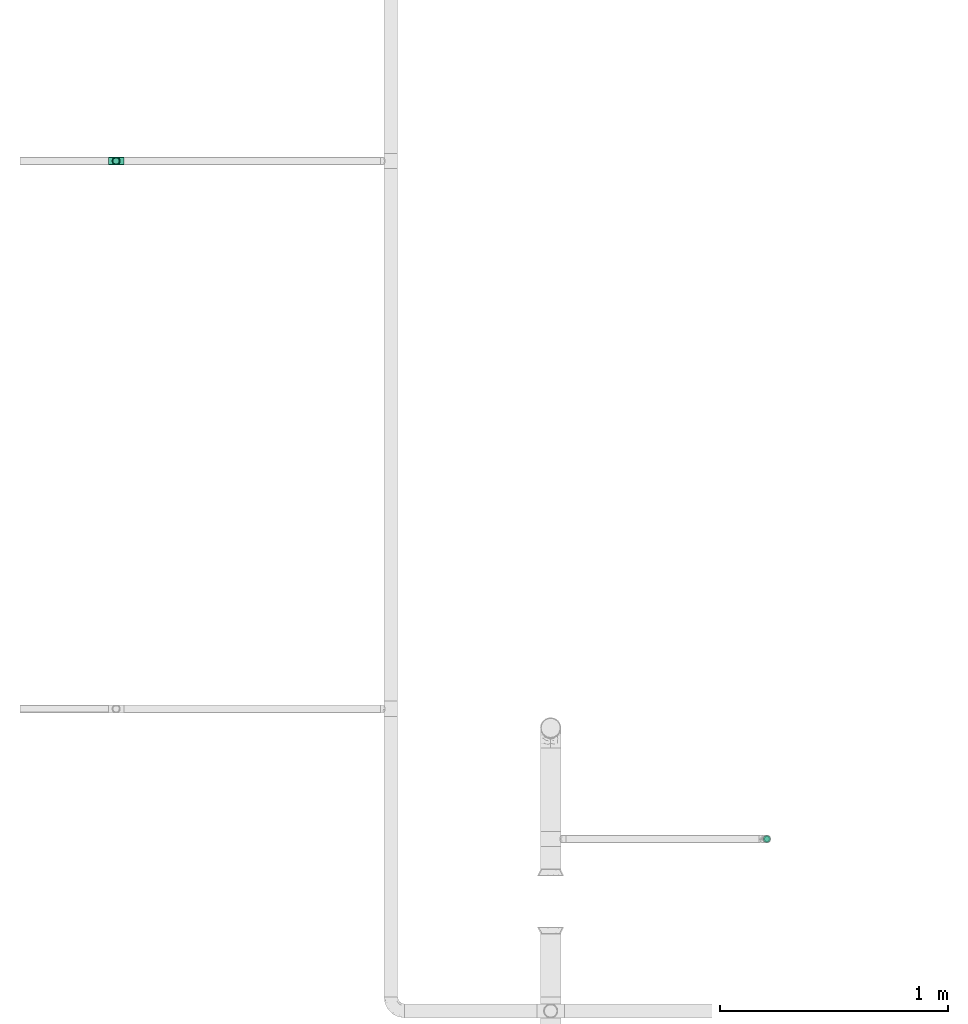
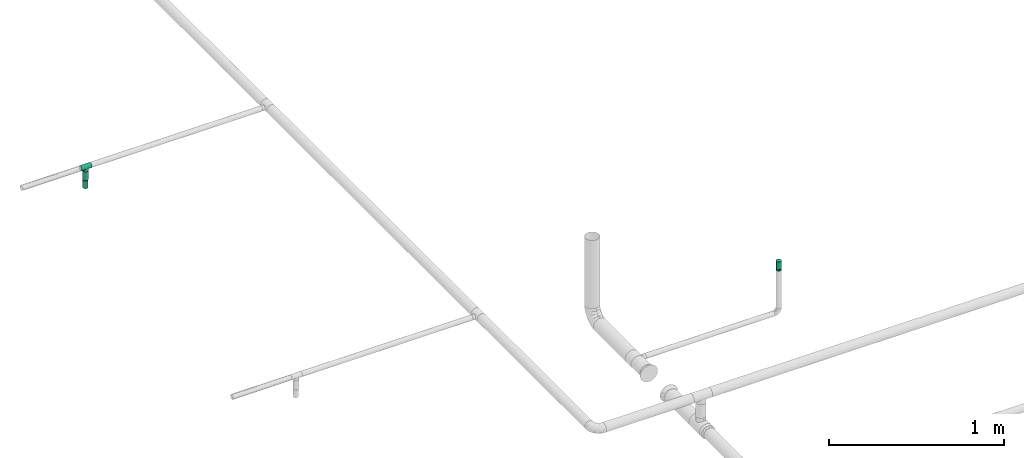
# One storey, part 20 of 45: 2 flow fittings, 2 flow terminals, 1 flow segment.
"""IFC2X3 building model written with IfcOpenShell, lengths in millimetres."""

import ifcopenshell
import ifcopenshell.guid

model = None  # the IFC model being written
_history = None  # IfcOwnerHistory: only IFC2X3 demands one
_inside = {}  # id of a spatial element -> (the spatial element, [elements in it])
_under = {}  # id of a project, library or spatial element -> (it, [spatial elements below it])
_declared = {}  # id of a project -> (the project, [libraries it declares])
_typed = {}  # id of a type object -> (the type object, [elements of that type])
_made_of = {}  # id of a material, layer set ... -> (it, [elements and type objects made of it])


def new_model(schema):
    """Start an empty IFC model of exactly this schema.

    Asked for "IFC4X3", IfcOpenShell would pick the latest addendum, in which some entities
    have other attributes; the version numbers below select the first issue.
    IFC2X3 requires an IfcOwnerHistory on every rooted entity: one is made here for all.
    """
    global model, _history
    if schema == "IFC4X3":
        model = ifcopenshell.file(schema_version=(4, 3, 0, 0))
    else:
        model = ifcopenshell.file(schema=schema)
    _inside.clear()
    _under.clear()
    _declared.clear()
    _typed.clear()
    _made_of.clear()
    _history = None
    if model.schema == "IFC2X3":
        org = make("IfcOrganization", Name="unknown")
        user = make(
            "IfcPersonAndOrganization",
            ThePerson=make("IfcPerson", FamilyName="unknown"),
            TheOrganization=org,
        )
        app = make(
            "IfcApplication",
            ApplicationDeveloper=org,
            Version="unknown",
            ApplicationFullName="unknown",
            ApplicationIdentifier="unknown",
        )
        _history = make(
            "IfcOwnerHistory",
            OwningUser=user,
            OwningApplication=app,
            ChangeAction="ADDED",
            CreationDate=0,
        )
    return model


def make(cls, **values):
    """One entity of the class cls with the attributes given. An attribute that is None is left unset."""
    return model.create_entity(
        cls, **{name: value for name, value in values.items() if value is not None}
    )


def entity(cls, *values):
    """Any entity or typed value of the class cls, its attributes in the order of the schema. None: left unset."""
    e = model.create_entity(cls)
    for i, value in enumerate(values):
        if value is not None:
            e[i] = value
    return e


def rooted(cls, **values):
    """An entity with a GlobalId (a new one), such as an element, a storey or a relation."""
    return make(cls, GlobalId=ifcopenshell.guid.new(), OwnerHistory=_history, **values)


def si_unit(unit_type, name, prefix=None):
    """IfcSIUnit, for example si_unit("LENGTHUNIT", "METRE", prefix="MILLI")."""
    return make("IfcSIUnit", UnitType=unit_type, Prefix=prefix, Name=name)


def converted_unit(unit_type, name, factor, base, dimensions=None, offset=None):
    """IfcConversionBasedUnit, such as the inch: factor (a typed value) times the base unit."""
    return make(
        "IfcConversionBasedUnit"
        if offset is None
        else "IfcConversionBasedUnitWithOffset",
        ConversionOffset=offset,
        Dimensions=None
        if dimensions is None
        else entity("IfcDimensionalExponents", *dimensions),
        UnitType=unit_type,
        Name=name,
        ConversionFactor=make(
            "IfcMeasureWithUnit", ValueComponent=factor, UnitComponent=base
        ),
    )


def derived_unit(unit_type, elements):
    """IfcDerivedUnit: a product of units, each with its exponent."""
    return make(
        "IfcDerivedUnit",
        Elements=[
            make("IfcDerivedUnitElement", Unit=unit, Exponent=power)
            for unit, power in elements
        ],
        UnitType=unit_type,
    )


def assignment(units):
    """IfcUnitAssignment: the units of a project."""
    return None if units is None else make("IfcUnitAssignment", Units=units)


def point(xyz):
    """IfcCartesianPoint."""
    return None if xyz is None else make("IfcCartesianPoint", Coordinates=xyz)


def direction(xyz):
    """IfcDirection."""
    return None if xyz is None else make("IfcDirection", DirectionRatios=xyz)


def frame(location, z_axis=None, x_axis=None):
    """IfcAxis2Placement3D, a coordinate frame: its origin and axes. An axis left out is left unset."""
    return make(
        "IfcAxis2Placement3D",
        Location=point(location),
        Axis=direction(z_axis),
        RefDirection=direction(x_axis),
    )


def frame_2d(location, x_axis=None):
    """IfcAxis2Placement2D, a coordinate frame in the plane: its origin and x axis."""
    return make(
        "IfcAxis2Placement2D", Location=point(location), RefDirection=direction(x_axis)
    )


def origin_with_axes():
    """The frame at (0, 0, 0) with the z axis (0, 0, 1) and the x axis (1, 0, 0) written out."""
    return frame((0.0, 0.0, 0.0), z_axis=(0.0, 0.0, 1.0), x_axis=(1.0, 0.0, 0.0))


def origin_2d_with_axis():
    """The frame at (0, 0) in the plane with the x axis (1, 0) written out."""
    return frame_2d((0.0, 0.0), x_axis=(1.0, 0.0))


def place(relative_to, where):
    """IfcLocalPlacement: puts the frame where relative to a parent placement (None: the world)."""
    return make(
        "IfcLocalPlacement", PlacementRelTo=relative_to, RelativePlacement=where
    )


def context(
    kind, dimensions, precision=None, world=None, true_north=None, identifier=None
):
    """IfcGeometricRepresentationContext, for example the 3D "Model" context."""
    return make(
        "IfcGeometricRepresentationContext",
        ContextIdentifier=identifier,
        ContextType=kind,
        CoordinateSpaceDimension=dimensions,
        Precision=precision,
        WorldCoordinateSystem=world,
        TrueNorth=true_north,
    )


def subcontext(parent, identifier, kind, view, scale=None):
    """IfcGeometricRepresentationSubContext, for example "Body" below "Model"."""
    return make(
        "IfcGeometricRepresentationSubContext",
        ContextIdentifier=identifier,
        ContextType=kind,
        ParentContext=parent,
        TargetScale=scale,
        TargetView=view,
    )


def project(units=None, contexts=None):
    """IfcProject with its units and contexts."""
    return rooted(
        "IfcProject",
        Name="project",
        RepresentationContexts=contexts,
        UnitsInContext=assignment(units),
    )


def spatial(cls, under=None, at=None, **own):
    """A site, building, storey or space (cls), placed at a placement, below another one or the project."""
    s = rooted(cls, ObjectPlacement=at, **own)
    if under is not None:
        _under.setdefault(under.id(), (under, []))[1].append(s)
    return s


def profile(cls, at=None, kind="AREA", **sizes):
    """A parametric profile (cls). Its sizes go by their IFC names, for example OverallWidth=200.0."""
    return make(cls, ProfileType=kind, Position=at, **sizes)


def hollow_circle(**sizes):
    """IfcCircleHollowProfileDef."""
    return profile("IfcCircleHollowProfileDef", **sizes)


def extrude(swept, where, along, depth):
    """IfcExtrudedAreaSolid: the profile swept, set in the frame where, extruded along a direction by depth."""
    return make(
        "IfcExtrudedAreaSolid",
        SweptArea=swept,
        Position=where,
        ExtrudedDirection=direction(along),
        Depth=depth,
    )


def faces_of(points, faces, orient=None, outer=None):
    """IfcFace entities. A face is a list of loops; a loop is a list of indices into points, from 0.

    orient and outer hold one flag for each loop. By default every Orientation is true, the
    first loop of a face is its IfcFaceOuterBound and the others are IfcFaceBound.
    """
    made = []
    for i, loops in enumerate(faces):
        bounds = []
        for j, loop in enumerate(loops):
            is_outer = j == 0 if outer is None else outer[i][j]
            bounds.append(
                make(
                    "IfcFaceOuterBound" if is_outer else "IfcFaceBound",
                    Bound=make("IfcPolyLoop", Polygon=[points[k] for k in loop]),
                    Orientation=True if orient is None else orient[i][j],
                )
            )
        made.append(make("IfcFace", Bounds=bounds))
    return made


def open_shell(faces, orient=None, outer=None):
    """The faces of one IfcOpenShell. surface_model builds it on its shared points."""
    return ("IfcOpenShell", faces, orient, outer)


def surface_model(cls, points, shells):
    """IfcFaceBasedSurfaceModel or IfcShellBasedSurfaceModel (cls): surfaces that need not close."""
    shared = [point(p) for p in points]
    made = [make(c, CfsFaces=faces_of(shared, fs, o, b)) for c, fs, o, b in shells]
    if cls == "IfcFaceBasedSurfaceModel":
        return make(cls, FbsmFaces=made)
    return make(cls, SbsmBoundary=made)


def shape(context_of_items, identifier, shape_type, items):
    """IfcShapeRepresentation: the items that make up one representation, for example the "Body"."""
    return make(
        "IfcShapeRepresentation",
        ContextOfItems=context_of_items,
        RepresentationIdentifier=identifier,
        RepresentationType=shape_type,
        Items=items,
    )


def source(mapping_origin, context_of_items, identifier, shape_type, items):
    """IfcRepresentationMap: a shape defined once, which mapped items show again and again."""
    return make(
        "IfcRepresentationMap",
        MappingOrigin=mapping_origin,
        MappedRepresentation=shape(context_of_items, identifier, shape_type, items),
    )


def transform(
    local_origin,
    x_axis=None,
    y_axis=None,
    z_axis=None,
    scale=None,
    scale2=None,
    scale3=None,
    uniform=True,
):
    """IfcCartesianTransformationOperator3D, or its non-uniform kind. x_axis, y_axis, z_axis: its Axis1, 2, 3."""
    if uniform:
        return make(
            "IfcCartesianTransformationOperator3D",
            Axis1=direction(x_axis),
            Axis2=direction(y_axis),
            LocalOrigin=point(local_origin),
            Scale=scale,
            Axis3=direction(z_axis),
        )
    return make(
        "IfcCartesianTransformationOperator3DnonUniform",
        Axis1=direction(x_axis),
        Axis2=direction(y_axis),
        LocalOrigin=point(local_origin),
        Scale=scale,
        Axis3=direction(z_axis),
        Scale2=scale2,
        Scale3=scale3,
    )


def mapped(mapping_source, mapping_target):
    """IfcMappedItem: shows the shape of a source again, moved by a transform."""
    return make(
        "IfcMappedItem", MappingSource=mapping_source, MappingTarget=mapping_target
    )


def made_of(thing, what):
    """Note that an element or type object is made of a material, layer set ...; save() writes the relation."""
    if what is not None:
        _made_of.setdefault(what.id(), (what, []))[1].append(thing)
    return thing


def type_object(cls, material=None, **own):
    """A type object (cls), such as IfcWallType, which elements share."""
    return made_of(rooted(cls, **own), material)


def element(
    cls,
    number,
    at=None,
    inside=None,
    cuts=None,
    type_object=None,
    material=None,
    context=None,
    identifier="Body",
    shape_type=None,
    held_by="IfcProductDefinitionShape",
    body=None,
    shapes=None,
    **own,
):
    """One element of the class cls, such as IfcWall. Its Tag is "e" and its number.

    at: its placement. inside: the storey or other place that contains it. cuts: it is an
    opening in that element (IfcRelVoidsElement). A single representation is given by context,
    identifier, shape_type and body (its items); several are given by shapes. held_by: the class
    of the entity that holds the representations. save() writes the other relations.
    """
    e = rooted(cls, Tag="e%d" % number, ObjectPlacement=at, **own)
    if body is not None:
        shapes = [shape(context, identifier, shape_type, body)]
    if shapes is not None:
        e.Representation = make(held_by, Representations=shapes)
    if inside is not None:
        _inside.setdefault(inside.id(), (inside, []))[1].append(e)
    if cuts is not None:
        rooted(
            "IfcRelVoidsElement", RelatingBuildingElement=cuts, RelatedOpeningElement=e
        )
    if type_object is not None:
        _typed.setdefault(type_object.id(), (type_object, []))[1].append(e)
    return made_of(e, material)


def aggregate(whole, parts):
    """IfcRelAggregates: a whole, such as a stair, and the parts it consists of."""
    return rooted("IfcRelAggregates", RelatingObject=whole, RelatedObjects=parts)


def save(model, path):
    """Write the relations noted so far, then the file.

    IfcRelAggregates (storeys below a building ...), IfcRelContainedInSpatialStructure (elements
    in a storey), IfcRelDefinesByType, IfcRelAssociatesMaterial and IfcRelDeclares: one each for
    every whole, place, type object, material and project.
    """
    for whole, parts in _under.values():
        aggregate(whole, parts)
    for where, things in _inside.values():
        rooted(
            "IfcRelContainedInSpatialStructure",
            RelatedElements=things,
            RelatingStructure=where,
        )
    for kind, things in _typed.values():
        rooted("IfcRelDefinesByType", RelatedObjects=things, RelatingType=kind)
    for what, things in _made_of.values():
        rooted("IfcRelAssociatesMaterial", RelatedObjects=things, RelatingMaterial=what)
    for by, libraries in _declared.values():
        rooted("IfcRelDeclares", RelatingContext=by, RelatedDefinitions=libraries)
    model.write(path)


model = new_model("IFC2X3")

# Units and contexts
model_context = context("Model", 3, precision=0.01, world=frame((0.0, 4.29681676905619e-09, 0.0)), true_north=direction((4.01073788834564e-13, 1.0)))
plan_context = context("Plan", 3, precision=0.01, world=frame((0.0, 4.29681676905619e-09, 0.0)), true_north=direction((4.01073788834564e-13, 1.0)))
body_context = subcontext(model_context, "Body", "Model", "MODEL_VIEW")
ifc_project = project(units=[converted_unit("PLANEANGLEUNIT", "DEGREE", entity("IfcPositiveLengthMeasure", 0.0174532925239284), si_unit("PLANEANGLEUNIT", "RADIAN"), dimensions=[0, 0, 0, 0, 0, 0, 0]), si_unit("AREAUNIT", "SQUARE_METRE"), si_unit("LENGTHUNIT", "METRE", prefix="MILLI"), si_unit("MASSUNIT", "GRAM", prefix="KILO"), si_unit("POWERUNIT", "WATT"), si_unit("PRESSUREUNIT", "PASCAL", prefix="KILO"), si_unit("FORCEUNIT", "NEWTON", prefix="KILO"), si_unit("ELECTRICVOLTAGEUNIT", "VOLT"), si_unit("ELECTRICCURRENTUNIT", "AMPERE"), si_unit("THERMODYNAMICTEMPERATUREUNIT", "DEGREE_CELSIUS"), si_unit("TIMEUNIT", "SECOND"), si_unit("VOLUMEUNIT", "CUBIC_METRE"), derived_unit("LINEARVELOCITYUNIT", [(si_unit("LENGTHUNIT", "METRE"), 1), (si_unit("TIMEUNIT", "SECOND"), -1)]), derived_unit("VOLUMETRICFLOWRATEUNIT", [(si_unit("VOLUMEUNIT", "CUBIC_METRE"), 1), (si_unit("TIMEUNIT", "SECOND"), -1)]), derived_unit("THERMALTRANSMITTANCEUNIT", [(si_unit("POWERUNIT", "WATT"), 1), (si_unit("THERMODYNAMICTEMPERATUREUNIT", "KELVIN"), -1), (si_unit("AREAUNIT", "SQUARE_METRE"), -1)]), derived_unit("SOUNDPRESSUREUNIT", [(si_unit("PRESSUREUNIT", "PASCAL"), 1)])], contexts=[model_context, plan_context])

# Site, building, storey
site_placement = place(None, frame((0.0, -4.29681676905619e-09, 0.0), z_axis=(0.0, 0.0, 1.0), x_axis=(1.0, 0.0, 0.0)))
site = spatial("IfcSite", under=ifc_project, at=site_placement, CompositionType="ELEMENT")
building_placement = place(site_placement, frame((0.0, 4.29681676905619e-09, 0.0), z_axis=(0.0, 0.0, 1.0), x_axis=(1.0, 0.0, 0.0)))
building = spatial("IfcBuilding", under=site, at=building_placement, Name="mc-building", CompositionType="ELEMENT")
storey_placement = place(building_placement, frame((0.0, 0.0, 210200.0), z_axis=(0.0, 0.0, 1.0), x_axis=(1.0, 0.0, 0.0)))
storey = spatial("IfcBuildingStorey", under=building, at=storey_placement, Name="Nivå F - 0,7 m", CompositionType="ELEMENT", Elevation=210200.0)

# Flow fittings
pipe_fitting_type_1 = type_object("IfcPipeFittingType", Name="magi_pipe_fe_tee_centric_90_001", PredefinedType="JUNCTION")
shared_shape_1 = source(origin_with_axes(), body_context, "Body", "SurfaceModel", [
    surface_model("IfcShellBasedSurfaceModel", [(-33.8, -8.45, 14.63583), (-33.8, 0.0, 16.9), (-33.8, 8.45, 14.63583), (-33.8, -4.37404, -16.32415), (-33.8, 16.32415, 4.37404), (-33.8, 0.0, -16.9), (-33.8, -11.9501, -11.9501), (-33.8, -8.45, -14.63583), (-33.8, -14.63583, -8.45), (-33.8, -16.32415, -4.37404), (-33.8, 16.9, 0.0), (-33.8, 8.45, -14.63583), (-33.8, 14.63583, -8.45), (-33.8, 11.9501, -11.9501), (-33.8, 4.37404, -16.32415), (-33.8, 16.32415, -4.37404), (-33.8, -16.32415, 4.37404), (-33.8, -14.63583, 8.45), (-33.8, -11.9501, 11.9501), (-33.8, -4.37404, 16.32415), (-33.8, 14.63583, 8.45), (-33.8, 11.9501, 11.9501), (-33.8, 4.37404, 16.32415), (-33.8, -16.9, 0.0), (33.8, 0.0, -16.9), (33.8, 14.63583, -8.45), (33.8, -4.37404, -16.32415), (33.8, -8.45, -14.63583), (33.8, -14.63583, -8.45), (33.8, -16.32415, -4.37404), (33.8, -11.9501, -11.9501), (33.8, -8.45, 14.63583), (33.8, 4.37404, -16.32415), (33.8, 8.45, -14.63583), (33.8, 11.9501, -11.9501), (33.8, 16.9, 0.0), (33.8, 16.32415, -4.37404), (33.8, -16.32415, 4.37404), (33.8, -14.63583, 8.45), (33.8, 8.45, 14.63583), (33.8, -11.9501, 11.9501), (33.8, -4.37404, 16.32415), (33.8, 11.9501, 11.9501), (33.8, 14.63583, 8.45), (33.8, 16.32415, 4.37404), (33.8, 4.37404, 16.32415), (33.8, 0.0, 16.9), (33.8, -16.9, 0.0), (16.28698, 16.28698, 4.51047), (16.9, 16.9, 0.0), (14.62704, 14.62704, 8.4652), (9.47213, 9.47213, 13.99602), (12.26343, 12.26343, 11.62834), (-16.28698, 16.28698, 4.51047), (-16.9, 16.9, 0.0), (-14.62704, 14.62704, 8.4652), (-9.47213, 9.47213, 13.99602), (-12.26343, 12.26343, 11.62834), (-6.42894, 6.42894, 15.62942), (6.42894, 6.42894, 15.62942), (0.0, 0.0, 16.9), (3.24522, 3.24522, 16.58549), (-3.24522, 3.24522, 16.58549), (3.24522, 3.24522, -16.58549), (0.0, 0.0, -16.9), (-6.42894, 6.42894, -15.62942), (-3.24522, 3.24522, -16.58549), (6.42894, 6.42894, -15.62942), (9.47213, 9.47213, -13.99602), (12.26343, 12.26343, -11.62834), (14.62704, 14.62704, -8.4652), (16.28698, 16.28698, -4.51047), (-9.47213, 9.47213, -13.99602), (-12.26343, 12.26343, -11.62834), (-16.28698, 16.28698, -4.51047), (-14.62704, 14.62704, -8.4652), (0.0, 25.35, -16.9), (-16.9, 25.35, 0.0), (4.37404, 25.35, -16.32415), (8.45, 25.35, -14.63583), (14.63583, 25.35, -8.45), (16.32415, 25.35, -4.37404), (11.9501, 25.35, -11.9501), (16.9, 25.35, 0.0), (-11.9501, 25.35, -11.9501), (-14.63583, 25.35, -8.45), (-8.45, 25.35, -14.63583), (-4.37404, 25.35, -16.32415), (-16.32415, 25.35, -4.37404), (16.32415, 25.35, 4.37404), (8.45, 25.35, 14.63583), (14.63583, 25.35, 8.45), (-8.45, 25.35, 14.63583), (11.9501, 25.35, 11.9501), (4.37404, 25.35, 16.32415), (-14.63583, 25.35, 8.45), (-11.9501, 25.35, 11.9501), (-16.32415, 25.35, 4.37404), (-4.37404, 25.35, 16.32415), (0.0, 25.35, 16.9)], [open_shell([[[0, 1, 2]], [[3, 4, 5]], [[6, 3, 7]], [[8, 9, 3]], [[8, 3, 6]], [[10, 5, 4]], [[11, 12, 13]], [[11, 14, 5]], [[5, 15, 12]], [[12, 11, 5]], [[15, 5, 10]], [[4, 3, 9]], [[9, 16, 17]], [[4, 9, 17]], [[0, 2, 17]], [[0, 17, 18]], [[1, 0, 19]], [[20, 2, 21]], [[2, 20, 4]], [[2, 1, 22]], [[2, 4, 17]], [[16, 9, 23]], [[24, 25, 26]], [[27, 26, 28]], [[26, 29, 28]], [[30, 27, 28]], [[25, 31, 26]], [[32, 33, 24]], [[33, 34, 24]], [[35, 31, 36]], [[25, 24, 34]], [[31, 25, 36]], [[31, 29, 26]], [[31, 37, 29]], [[38, 37, 31]], [[35, 39, 31]], [[40, 38, 31]], [[41, 31, 39]], [[42, 39, 43]], [[44, 43, 39]], [[45, 46, 39]], [[39, 35, 44]], [[39, 46, 41]], [[29, 37, 47]], [[48, 43, 44]], [[49, 44, 35]], [[48, 44, 49]], [[48, 50, 43]], [[51, 39, 42]], [[52, 43, 50]], [[42, 52, 51]], [[42, 43, 52]], [[4, 53, 54]], [[10, 4, 54]], [[20, 53, 4]], [[20, 55, 53]], [[21, 56, 57]], [[57, 20, 21]], [[2, 56, 21]], [[55, 20, 57]], [[58, 56, 2]], [[59, 39, 51]], [[60, 46, 61]], [[61, 45, 59]], [[39, 59, 45]], [[46, 45, 61]], [[41, 46, 60]], [[16, 37, 38]], [[40, 31, 18]], [[38, 40, 17]], [[0, 31, 41]], [[47, 37, 23]], [[1, 60, 62]], [[58, 22, 62]], [[1, 62, 22]], [[2, 22, 58]], [[1, 19, 60]], [[60, 19, 41]], [[41, 19, 0]], [[18, 31, 0]], [[40, 18, 17]], [[38, 17, 16]], [[16, 23, 37]], [[30, 28, 8]], [[29, 47, 23]], [[7, 27, 30]], [[29, 9, 28]], [[63, 32, 24]], [[26, 64, 24]], [[63, 24, 64]], [[3, 26, 27]], [[26, 3, 64]], [[7, 30, 6]], [[8, 28, 9]], [[6, 30, 8]], [[29, 23, 9]], [[14, 65, 66]], [[64, 3, 5]], [[14, 66, 5]], [[14, 11, 65]], [[27, 7, 3]], [[66, 64, 5]], [[67, 32, 63]], [[68, 34, 33]], [[34, 68, 69]], [[69, 70, 25]], [[25, 34, 69]], [[67, 68, 33]], [[49, 35, 36]], [[25, 71, 36]], [[49, 36, 71]], [[70, 71, 25]], [[65, 11, 72]], [[11, 13, 72]], [[73, 72, 13]], [[12, 73, 13]], [[15, 54, 74]], [[12, 74, 75]], [[12, 15, 74]], [[10, 54, 15]], [[73, 12, 75]], [[32, 67, 33]], [[76, 77, 78]], [[79, 78, 80]], [[78, 81, 80]], [[82, 79, 80]], [[78, 77, 83]], [[84, 85, 86]], [[76, 87, 86]], [[88, 77, 85]], [[86, 85, 77]], [[86, 77, 76]], [[83, 81, 78]], [[89, 83, 90]], [[91, 89, 90]], [[92, 90, 83]], [[93, 91, 90]], [[94, 90, 92]], [[95, 96, 97]], [[92, 97, 96]], [[98, 99, 92]], [[92, 77, 97]], [[92, 99, 94]], [[83, 77, 92]], [[54, 97, 77]], [[97, 54, 53]], [[57, 96, 95]], [[56, 92, 96]], [[53, 95, 97]], [[98, 92, 58]], [[95, 53, 55]], [[95, 55, 57]], [[92, 56, 58]], [[62, 60, 99]], [[62, 98, 58]], [[56, 96, 57]], [[99, 98, 62]], [[99, 61, 94]], [[94, 59, 90]], [[48, 89, 91]], [[91, 93, 52]], [[90, 51, 93]], [[83, 89, 49]], [[94, 61, 59]], [[90, 59, 51]], [[89, 48, 49]], [[91, 52, 50]], [[91, 50, 48]], [[52, 93, 51]], [[60, 61, 99]], [[49, 81, 83]], [[81, 49, 71]], [[69, 82, 80]], [[68, 79, 82]], [[71, 80, 81]], [[78, 79, 67]], [[80, 71, 70]], [[80, 70, 69]], [[79, 68, 67]], [[63, 64, 76]], [[63, 78, 67]], [[68, 82, 69]], [[76, 78, 63]], [[76, 66, 87]], [[87, 65, 86]], [[74, 88, 85]], [[84, 73, 85]], [[84, 86, 72]], [[77, 88, 54]], [[87, 66, 65]], [[86, 65, 72]], [[88, 74, 54]], [[85, 73, 75]], [[85, 75, 74]], [[73, 84, 72]], [[64, 66, 76]]])]),
])
flow_fitting_1_placement = place(storey_placement, frame((322215.87674, 466123.25463, 3145.0), z_axis=(0.0, 1.0, 0.0), x_axis=(1.0, 0.0, 0.0)))
element("IfcFlowFitting", 1, at=flow_fitting_1_placement, inside=storey, type_object=pipe_fitting_type_1, Name="magi_pipe_fe_tee_centric_90_001", context=body_context, shape_type="MappedRepresentation", body=[
    mapped(shared_shape_1, transform((0.0, 0.0, 0.0), scale=1.0)),
])
pipe_fitting_type_2 = type_object("IfcPipeFittingType", Name="magi_pipe_fe_reducer_centric_short_001", PredefinedType="TRANSITION")
shared_shape_2 = source(origin_with_axes(), body_context, "Body", "SurfaceModel", [
    surface_model("IfcShellBasedSurfaceModel", [(-2.0, -7.56604, -7.56604), (-2.0, -10.33541, -2.76936), (-2.0, -5.35, -9.26647), (-2.0, 5.35, -9.26647), (-2.0, 10.33541, -2.76936), (-2.0, 7.56604, -7.56604), (12.4, 11.9501, 11.9501), (12.4, 0.0, 16.9), (12.4, 11.9501, -11.9501), (12.4, 16.9, 0.0), (0.0, -10.7, 0.0), (0.0, -5.35, 9.26647), (0.0, -5.35, -9.26647), (0.0, 10.7, 0.0), (12.4, 15.66253, -2.98753), (12.4, 8.96258, -13.18758), (0.0, 6.6875, -6.94985), (12.4, -15.66253, -2.98753), (12.4, -16.9, 0.0), (12.4, 5.97505, -14.42505), (0.0, 5.35, -9.26647), (12.4, 14.42505, -5.97505), (0.0, 8.025, -4.63324), (0.0, 9.3625, -2.31662), (0.0, -9.3625, -2.31662), (0.0, -8.025, -4.63324), (12.4, -14.42505, -5.97505), (12.4, 13.18758, -8.96258), (12.4, -13.18758, -8.96258), (12.4, -11.9501, -11.9501), (0.0, -6.6875, -6.94985), (12.4, -8.96258, -13.18758), (12.4, -5.97505, -14.42505), (12.4, -15.66253, 2.98753), (12.4, -8.96258, 13.18758), (0.0, -6.6875, 6.94985), (12.4, -11.9501, 11.9501), (12.4, 15.66253, 2.98753), (12.4, -5.97505, 14.42505), (12.4, -14.42505, 5.97505), (0.0, -8.025, 4.63324), (0.0, -9.3625, 2.31662), (0.0, 9.3625, 2.31662), (0.0, 8.025, 4.63324), (12.4, 14.42505, 5.97505), (12.4, -13.18758, 8.96258), (12.4, 13.18758, 8.96258), (0.0, 6.6875, 6.94985), (12.4, 8.96258, 13.18758), (0.0, 5.35, 9.26647), (12.4, 5.97505, 14.42505), (14.4, 4.37404, -16.32415), (14.4, 8.45, -14.63583), (14.4, 11.9501, -11.9501), (14.4, -8.45, -14.63583), (14.4, 16.32415, -4.37404), (14.4, 16.32415, 4.37404), (14.4, 14.63583, -8.45), (14.4, 0.0, -16.9), (14.4, -4.37404, -16.32415), (14.4, -11.9501, -11.9501), (14.4, -16.32415, -4.37404), (14.4, -14.63583, -8.45), (14.4, -16.32415, 4.37404), (14.4, 16.9, 0.0), (14.4, 14.63583, 8.45), (14.4, 11.9501, 11.9501), (14.4, 4.37404, 16.32415), (14.4, 8.45, 14.63583), (14.4, 0.0, 16.9), (14.4, -14.63583, 8.45), (14.4, -16.9, 0.0), (14.4, -8.45, 14.63583), (14.4, -11.9501, 11.9501), (14.4, -4.37404, 16.32415), (12.4, 4.37404, 16.32415), (12.4, -14.63583, 8.45), (12.4, 16.32415, 4.37404), (12.4, 8.45, 14.63583), (12.4, 14.63583, 8.45), (12.4, -8.45, 14.63583), (12.4, -4.37404, 16.32415), (12.4, -16.32415, 4.37404), (12.4, -16.32415, -4.37404), (12.4, -8.45, -14.63583), (12.4, 16.32415, -4.37404), (12.4, 14.63583, -8.45), (12.4, 8.45, -14.63583), (12.4, 4.37404, -16.32415), (12.4, 0.0, -16.9), (12.4, -14.63583, -8.45), (12.4, -4.37404, -16.32415), (-2.0, 2.76936, 10.33541), (-2.0, 0.0, 10.7), (-2.0, 5.35, 9.26647), (-2.0, 7.56604, 7.56604), (-2.0, 9.26647, 5.35), (-2.0, 10.33541, 2.76936), (-2.0, -10.33541, 2.76936), (-2.0, -2.76936, 10.33541), (-2.0, -7.56604, 7.56604), (-2.0, -5.35, 9.26647), (-2.0, -9.26647, 5.35), (-2.0, -10.7, 0.0), (-2.0, 9.26647, -5.35), (-2.0, 2.76936, -10.33541), (-2.0, -9.26647, -5.35), (-2.0, 0.0, -10.7), (-2.0, -2.76936, -10.33541), (-2.0, 10.7, 0.0), (0.0, 0.0, -10.7), (0.0, 2.76936, -10.33541), (0.0, 10.33541, -2.76936), (0.0, 7.56604, -7.56604), (0.0, -10.33541, -2.76936), (0.0, 9.26647, -5.35), (0.0, 0.0, 10.7), (0.0, -2.76936, -10.33541), (0.0, -7.56604, -7.56604), (0.0, -9.26647, -5.35), (0.0, 10.33541, 2.76936), (0.0, 9.26647, 5.35), (0.0, 7.56604, 7.56604), (0.0, 2.76936, 10.33541), (0.0, -7.56604, 7.56604), (0.0, -10.33541, 2.76936), (0.0, -9.26647, 5.35), (0.0, -2.76936, 10.33541), (0.0, 2.675, -9.26647), (0.0, -2.675, -9.26647), (12.4, 2.98753, -15.66253), (0.0, 0.0, -9.26647), (12.4, -2.98753, -15.66253), (0.0, -2.675, 9.26647), (0.0, 2.675, 9.26647), (12.4, -2.98753, 15.66253), (0.0, 0.0, 9.26647), (12.4, 2.98753, 15.66253)], [open_shell([[[0, 1, 2]], [[3, 4, 5]], [[6, 7, 8]], [[8, 9, 6]], [[10, 11, 12]], [[13, 9, 14]], [[15, 16, 8]], [[17, 18, 10]], [[15, 19, 20]], [[21, 22, 23]], [[24, 25, 26]], [[22, 21, 27]], [[28, 26, 25]], [[29, 30, 31]], [[12, 32, 31]], [[10, 18, 33]], [[34, 35, 36]], [[37, 9, 13]], [[34, 38, 11]], [[39, 40, 41]], [[42, 43, 44]], [[40, 39, 45]], [[46, 44, 43]], [[6, 47, 48]], [[49, 50, 48]], [[51, 52, 53]], [[54, 51, 53]], [[53, 55, 56]], [[55, 53, 57]], [[53, 56, 54]], [[58, 54, 59]], [[58, 51, 54]], [[60, 61, 62]], [[61, 60, 54]], [[54, 63, 61]], [[56, 55, 64]], [[56, 65, 66]], [[56, 66, 67]], [[67, 63, 54]], [[67, 66, 68]], [[63, 67, 69]], [[69, 70, 63]], [[71, 61, 63]], [[70, 72, 73]], [[70, 69, 72]], [[72, 69, 74]], [[54, 56, 67]], [[75, 76, 7]], [[77, 75, 78]], [[6, 79, 77]], [[6, 77, 78]], [[76, 75, 77]], [[80, 76, 36]], [[80, 81, 7]], [[7, 76, 80]], [[82, 76, 77]], [[82, 83, 18]], [[82, 77, 84]], [[77, 85, 8]], [[8, 85, 86]], [[8, 87, 88]], [[84, 77, 8]], [[88, 89, 8]], [[83, 29, 90]], [[29, 83, 84]], [[84, 89, 91]], [[83, 82, 84]], [[8, 89, 84]], [[85, 77, 9]], [[83, 61, 18]], [[90, 62, 83]], [[54, 29, 84]], [[90, 29, 60]], [[59, 84, 91]], [[83, 62, 61]], [[61, 71, 18]], [[59, 54, 84]], [[60, 29, 54]], [[60, 62, 90]], [[58, 59, 91]], [[91, 89, 58]], [[88, 51, 89]], [[87, 52, 88]], [[57, 8, 86]], [[87, 8, 53]], [[55, 86, 85]], [[87, 53, 52]], [[52, 51, 88]], [[64, 55, 85]], [[57, 86, 55]], [[57, 53, 8]], [[9, 64, 85]], [[89, 51, 58]], [[77, 56, 9]], [[79, 65, 77]], [[68, 6, 78]], [[79, 6, 66]], [[67, 78, 75]], [[77, 65, 56]], [[56, 64, 9]], [[67, 68, 78]], [[66, 6, 68]], [[66, 65, 79]], [[69, 67, 75]], [[75, 7, 69]], [[81, 74, 7]], [[80, 72, 81]], [[70, 36, 76]], [[80, 36, 73]], [[63, 76, 82]], [[80, 73, 72]], [[72, 74, 81]], [[71, 63, 82]], [[70, 76, 63]], [[70, 73, 36]], [[18, 71, 82]], [[7, 74, 69]], [[92, 1, 93]], [[94, 1, 92]], [[95, 96, 97]], [[95, 97, 94]], [[98, 93, 1]], [[99, 100, 101]], [[99, 93, 100]], [[100, 98, 102]], [[93, 98, 100]], [[98, 1, 103]], [[94, 97, 1]], [[1, 97, 4]], [[5, 4, 104]], [[4, 3, 1]], [[105, 1, 3]], [[1, 0, 106]], [[2, 107, 108]], [[2, 1, 105]], [[105, 107, 2]], [[4, 97, 109]], [[20, 110, 111]], [[112, 20, 113]], [[114, 20, 112]], [[112, 113, 115]], [[116, 114, 112]], [[110, 12, 117]], [[110, 20, 12]], [[118, 114, 119]], [[114, 118, 12]], [[20, 114, 12]], [[112, 13, 120]], [[120, 121, 122]], [[120, 122, 123]], [[116, 112, 123]], [[123, 122, 49]], [[116, 124, 114]], [[125, 124, 126]], [[10, 114, 125]], [[124, 127, 11]], [[125, 114, 124]], [[127, 124, 116]], [[123, 112, 120]], [[1, 114, 103]], [[106, 119, 1]], [[12, 0, 2]], [[106, 0, 118]], [[117, 2, 108]], [[1, 119, 114]], [[114, 10, 103]], [[117, 12, 2]], [[118, 0, 12]], [[118, 119, 106]], [[110, 117, 108]], [[108, 107, 110]], [[105, 111, 107]], [[3, 20, 105]], [[115, 5, 104]], [[3, 5, 113]], [[112, 104, 4]], [[3, 113, 20]], [[20, 111, 105]], [[13, 112, 4]], [[115, 104, 112]], [[115, 113, 5]], [[109, 13, 4]], [[107, 111, 110]], [[97, 120, 109]], [[96, 121, 97]], [[49, 95, 94]], [[96, 95, 122]], [[123, 94, 92]], [[97, 121, 120]], [[120, 13, 109]], [[123, 49, 94]], [[122, 95, 49]], [[122, 121, 96]], [[116, 123, 92]], [[92, 93, 116]], [[99, 127, 93]], [[101, 11, 99]], [[126, 100, 102]], [[101, 100, 124]], [[125, 102, 98]], [[101, 124, 11]], [[11, 127, 99]], [[10, 125, 98]], [[126, 102, 125]], [[126, 124, 100]], [[103, 10, 98]], [[93, 127, 116]], [[18, 7, 36]], [[18, 29, 8]], [[89, 8, 29]], [[18, 8, 7]], [[13, 11, 49]], [[13, 20, 12]], [[13, 12, 11]], [[24, 26, 17]], [[10, 24, 17]], [[16, 15, 20]], [[30, 12, 31]], [[23, 14, 21]], [[19, 128, 20]], [[27, 8, 16]], [[32, 12, 129]], [[30, 28, 25]], [[130, 131, 128]], [[129, 132, 32]], [[16, 22, 27]], [[13, 14, 23]], [[128, 19, 130]], [[130, 89, 131]], [[131, 132, 129]], [[89, 132, 131]], [[28, 30, 29]], [[42, 44, 37]], [[13, 42, 37]], [[35, 34, 11]], [[47, 49, 48]], [[41, 33, 39]], [[38, 133, 11]], [[45, 36, 35]], [[50, 49, 134]], [[47, 46, 43]], [[135, 136, 133]], [[134, 137, 50]], [[35, 40, 45]], [[10, 33, 41]], [[133, 38, 135]], [[135, 7, 136]], [[136, 137, 134]], [[7, 137, 136]], [[46, 47, 6]]])]),
])
flow_fitting_2_placement = place(storey_placement, frame((325066.3677, 463153.36146, 3245.04800000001), z_axis=(0.0, 1.0, 0.0), x_axis=(0.0, 0.0, -1.0)))
element("IfcFlowFitting", 2, at=flow_fitting_2_placement, inside=storey, type_object=pipe_fitting_type_2, Name="magi_pipe_fe_reducer_centric_short_001", context=body_context, shape_type="MappedRepresentation", body=[
    mapped(shared_shape_2, transform((0.0, 0.0, 0.0), scale=1.0)),
])

# Flow segment
pipe_segment_type = type_object("IfcPipeSegmentType", Name="Stålrør normaltykke", PredefinedType="RIGIDSEGMENT")
shared_shape_3 = source(origin_with_axes(), body_context, "Body", "SweptSolid", [
    extrude(hollow_circle(Radius=16.9, WallThickness=2.0, at=origin_2d_with_axis()), frame((0.0, 0.0, 0.0), z_axis=(1.0, 0.0, 0.0), x_axis=(0.0, 1.0, 0.0)), (0.0, 0.0, 1.0), 60.7),
])
flow_segment_placement = place(storey_placement, frame((322215.87674, 466123.25463, 3119.64999999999), z_axis=(0.0, -1.0, 0.0), x_axis=(0.0, 0.0, -1.0)))
element("IfcFlowSegment", 3, at=flow_segment_placement, inside=storey, type_object=pipe_segment_type, Name="Stålrør normaltykke", context=body_context, shape_type="MappedRepresentation", body=[
    mapped(shared_shape_3, transform((0.0, 0.0, 0.0), scale=1.0)),
])

# Flow terminals
fire_suppression_terminal_type_1 = type_object("IfcFireSuppressionTerminalType", Name="SP-15-K80-68DGR-STD-STÅENDE", PredefinedType="NOTDEFINED")
shared_shape_4 = source(origin_with_axes(), body_context, "Body", "SurfaceModel", [
    surface_model("IfcShellBasedSurfaceModel", [(4.1411, -15.45481, 53.0), (8.0, -13.85641, 53.0), (11.31371, -11.31371, 53.0), (-8.0, -13.85641, 53.0), (15.45481, -4.1411, 53.0), (16.0, 0.0, 53.0), (13.85641, -8.0, 53.0), (0.0, -16.0, 53.0), (-4.1411, -15.45481, 53.0), (-13.85641, -8.0, 53.0), (-11.31371, -11.31371, 53.0), (-15.45481, -4.1411, 53.0), (15.45481, 4.1411, 53.0), (13.85641, 8.0, 53.0), (11.31371, 11.31371, 53.0), (-4.1411, 15.45481, 53.0), (8.0, 13.85641, 53.0), (4.1411, 15.45481, 53.0), (0.0, 16.0, 53.0), (-13.85641, 8.0, 53.0), (-15.45481, 4.1411, 53.0), (-16.0, 0.0, 53.0), (-11.31371, 11.31371, 53.0), (-8.0, 13.85641, 53.0), (0.0, 16.0, 0.0), (4.1411, 15.45481, 0.0), (8.0, 13.85641, 0.0), (-4.1411, 15.45481, 0.0), (11.31371, 11.31371, 0.0), (13.85641, 8.0, 0.0), (15.45481, 4.1411, 0.0), (-15.45481, -4.1411, 0.0), (-11.31371, 11.31371, 0.0), (-8.0, 13.85641, 0.0), (-13.85641, 8.0, 0.0), (-15.45481, 4.1411, 0.0), (-16.0, 0.0, 0.0), (4.1411, -15.45481, 0.0), (16.0, 0.0, 0.0), (15.45481, -4.1411, 0.0), (13.85641, -8.0, 0.0), (11.31371, -11.31371, 0.0), (8.0, -13.85641, 0.0), (-8.0, -13.85641, 0.0), (-13.85641, -8.0, 0.0), (-11.31371, -11.31371, 0.0), (0.0, -16.0, 0.0), (-4.1411, -15.45481, 0.0)], [open_shell([[[0, 1, 2]], [[3, 0, 2]], [[4, 5, 2]], [[4, 2, 6]], [[3, 2, 5]], [[7, 3, 8]], [[7, 0, 3]], [[3, 9, 10]], [[9, 3, 11]], [[5, 11, 3]], [[5, 12, 11]], [[12, 13, 14]], [[15, 12, 14]], [[16, 17, 18]], [[14, 16, 15]], [[18, 15, 16]], [[11, 19, 20]], [[21, 11, 20]], [[22, 15, 23]], [[15, 22, 19]], [[19, 11, 15]], [[11, 12, 15]], [[24, 25, 26]], [[27, 24, 26]], [[28, 29, 30]], [[27, 26, 28]], [[27, 28, 31]], [[27, 32, 33]], [[32, 27, 34]], [[34, 31, 35]], [[31, 34, 27]], [[35, 31, 36]], [[28, 30, 31]], [[37, 38, 39]], [[37, 39, 40]], [[41, 42, 37]], [[41, 37, 40]], [[38, 37, 43]], [[44, 43, 45]], [[43, 44, 31]], [[43, 46, 47]], [[43, 31, 38]], [[37, 46, 43]], [[38, 31, 30]], [[11, 31, 44]], [[45, 9, 44]], [[3, 43, 47]], [[45, 43, 10]], [[8, 47, 46]], [[31, 21, 36]], [[31, 11, 21]], [[44, 9, 11]], [[45, 10, 9]], [[3, 10, 43]], [[47, 8, 3]], [[46, 7, 8]], [[0, 37, 42]], [[41, 1, 42]], [[6, 40, 39]], [[41, 40, 2]], [[4, 39, 38]], [[37, 0, 7]], [[42, 1, 0]], [[41, 2, 1]], [[40, 6, 2]], [[4, 6, 39]], [[38, 5, 4]], [[37, 7, 46]], [[12, 38, 30]], [[13, 30, 29]], [[16, 26, 25]], [[17, 25, 24]], [[30, 13, 12]], [[12, 5, 38]], [[28, 14, 13]], [[28, 26, 14]], [[14, 26, 16]], [[25, 17, 16]], [[28, 13, 29]], [[24, 18, 17]], [[15, 27, 33]], [[32, 23, 33]], [[19, 34, 35]], [[32, 34, 22]], [[20, 35, 36]], [[27, 15, 18]], [[33, 23, 15]], [[32, 22, 23]], [[34, 19, 22]], [[20, 19, 35]], [[36, 21, 20]], [[27, 18, 24]]])]),
])
flow_terminal_1_placement = place(storey_placement, frame((325066.3677, 463153.36146, 3242.0), z_axis=(0.0, 0.0, 1.0), x_axis=(1.0, 0.0, 0.0)))
element("IfcFlowTerminal", 4, at=flow_terminal_1_placement, inside=storey, type_object=fire_suppression_terminal_type_1, Name="SP-15-K80-68DGR-STD-STÅENDE", context=body_context, shape_type="MappedRepresentation", body=[
    mapped(shared_shape_4, transform((0.0, 0.0, 0.0), scale=1.0)),
])
fire_suppression_terminal_type_2 = type_object("IfcFireSuppressionTerminalType", Name="SP-15-K80-68DGR-STD-HIMLING", PredefinedType="NOTDEFINED")
shared_shape_5 = source(origin_with_axes(), body_context, "Body", "SurfaceModel", [
    surface_model("IfcShellBasedSurfaceModel", [(15.45481, -4.1411, 53.0), (13.85641, -8.0, 53.0), (15.45481, -4.1411, 0.0), (16.0, 0.0, 0.0), (16.0, 0.0, 53.0), (15.45481, 4.1411, 0.0), (13.85641, 8.0, 53.0), (15.45481, 4.1411, 53.0), (11.31371, 11.31371, 53.0), (8.0, 13.85641, 53.0), (4.1411, 15.45481, 53.0), (-8.0, 13.85641, 53.0), (-4.1411, 15.45481, 53.0), (0.0, 16.0, 53.0), (-11.31371, 11.31371, 53.0), (-13.85641, 8.0, 53.0), (-15.45481, 4.1411, 53.0), (11.31371, -11.31371, 53.0), (-16.0, 0.0, 53.0), (0.0, -16.0, 53.0), (4.1411, -15.45481, 53.0), (8.0, -13.85641, 53.0), (-13.85641, -8.0, 53.0), (-11.31371, -11.31371, 53.0), (-15.45481, -4.1411, 53.0), (-8.0, -13.85641, 53.0), (-4.1411, -15.45481, 53.0), (8.0, -13.85641, 0.0), (4.1411, -15.45481, 0.0), (0.0, -16.0, 0.0), (-4.1411, -15.45481, 0.0), (13.85641, -8.0, 0.0), (11.31371, -11.31371, 0.0), (-16.0, 0.0, 0.0), (-8.0, -13.85641, 0.0), (-11.31371, -11.31371, 0.0), (-13.85641, -8.0, 0.0), (-15.45481, -4.1411, 0.0), (4.1411, 15.45481, 0.0), (13.85641, 8.0, 0.0), (8.0, 13.85641, 0.0), (11.31371, 11.31371, 0.0), (-15.45481, 4.1411, 0.0), (-11.31371, 11.31371, 0.0), (-8.0, 13.85641, 0.0), (-13.85641, 8.0, 0.0), (-4.1411, 15.45481, 0.0), (0.0, 16.0, 0.0)], [open_shell([[[0, 1, 2]], [[3, 4, 0]], [[5, 6, 7]], [[7, 4, 3]], [[8, 9, 10]], [[8, 10, 11]], [[8, 4, 7]], [[6, 8, 7]], [[4, 8, 11]], [[12, 11, 13]], [[11, 10, 13]], [[14, 15, 11]], [[16, 11, 15]], [[11, 16, 4]], [[16, 0, 4]], [[17, 1, 0]], [[18, 17, 16]], [[19, 20, 21]], [[18, 21, 17]], [[21, 18, 19]], [[22, 23, 24]], [[18, 24, 23]], [[25, 26, 23]], [[18, 23, 26]], [[26, 19, 18]], [[0, 16, 17]], [[27, 28, 29]], [[27, 29, 30]], [[2, 31, 32]], [[32, 27, 33]], [[2, 32, 33]], [[34, 35, 30]], [[36, 30, 35]], [[36, 37, 30]], [[37, 27, 30]], [[37, 33, 27]], [[33, 5, 2]], [[38, 5, 33]], [[39, 5, 38]], [[38, 40, 41]], [[39, 38, 41]], [[33, 42, 38]], [[43, 44, 45]], [[42, 45, 44]], [[46, 47, 44]], [[38, 42, 44]], [[44, 47, 38]], [[5, 3, 2]], [[45, 42, 16]], [[45, 15, 43]], [[46, 44, 11]], [[14, 44, 43]], [[47, 46, 12]], [[33, 18, 42]], [[18, 16, 42]], [[16, 15, 45]], [[15, 14, 43]], [[44, 14, 11]], [[11, 12, 46]], [[12, 13, 47]], [[40, 38, 10]], [[40, 9, 41]], [[5, 39, 6]], [[8, 39, 41]], [[3, 5, 7]], [[13, 10, 38]], [[10, 9, 40]], [[9, 8, 41]], [[8, 6, 39]], [[47, 13, 38]], [[2, 3, 0]], [[31, 2, 1]], [[28, 27, 21]], [[29, 28, 20]], [[1, 17, 32]], [[17, 27, 32]], [[21, 27, 17]], [[21, 20, 28]], [[31, 1, 32]], [[20, 19, 29]], [[34, 30, 26]], [[34, 25, 35]], [[37, 36, 22]], [[23, 36, 35]], [[33, 37, 24]], [[19, 26, 30]], [[26, 25, 34]], [[25, 23, 35]], [[23, 22, 36]], [[37, 22, 24]], [[24, 18, 33]], [[29, 19, 30]]])]),
])
flow_terminal_2_placement = place(storey_placement, frame((322215.87674, 466123.25463, 3055.0), z_axis=(0.0, 0.0, -1.0), x_axis=(1.0, 0.0, 0.0)))
element("IfcFlowTerminal", 5, at=flow_terminal_2_placement, inside=storey, type_object=fire_suppression_terminal_type_2, Name="SP-15-K80-68DGR-STD-HIMLING", context=body_context, shape_type="MappedRepresentation", body=[
    mapped(shared_shape_5, transform((0.0, 0.0, 0.0), scale=1.0)),
])

save(model, "model.ifc")
